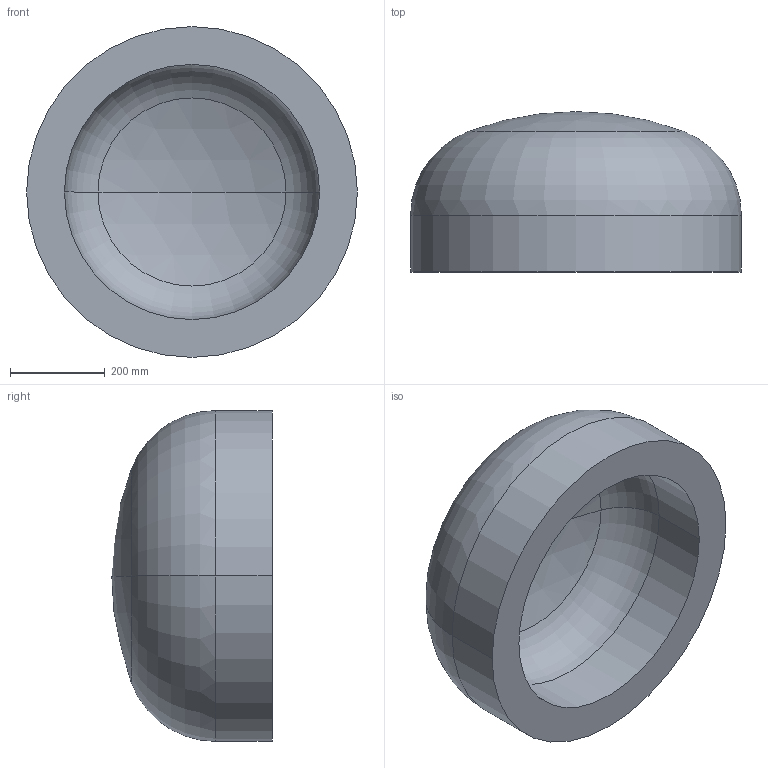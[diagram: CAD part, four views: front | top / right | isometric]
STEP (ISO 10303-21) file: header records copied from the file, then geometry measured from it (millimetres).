
FILE_DESCRIPTION (( 'STEP AP203' ), '1' );
FILE_NAME ('DIN 28013 Korbbogenform_-_Boden DIN 28013 - 700 x 120 - I - s=80.step', '2016-07-01T08:10:44', ( '' ), ( '' ), 'SwSTEP 2.0', 'SolidWorks 2013', '' );
FILE_SCHEMA (( 'CONFIG_CONTROL_DESIGN' ));
Length unit declared in the file: millimetre
Products named in the file (1): DIN 28013 Korbbogenform_-_Boden DIN 28013 - 700 x 120 - I - s=80
Bounding box: 700 x 339.41 x 700 mm (x, y, z)
Volume: 55926440.6 mm3; surface area: 1567388 mm2
Topology: 1 solids, 1 shells, 13 faces, 24 edges, 14 vertices
Faces by surface type: torus 4, cylinder 4, sphere 4, plane 1
Entity records: 407 total; most frequent: DIRECTION 72, CARTESIAN_POINT 52, ORIENTED_EDGE 48, AXIS2_PLACEMENT_3D 34, EDGE_CURVE 24, CIRCLE 20, EDGE_LOOP 14, VERTEX_POINT 14
